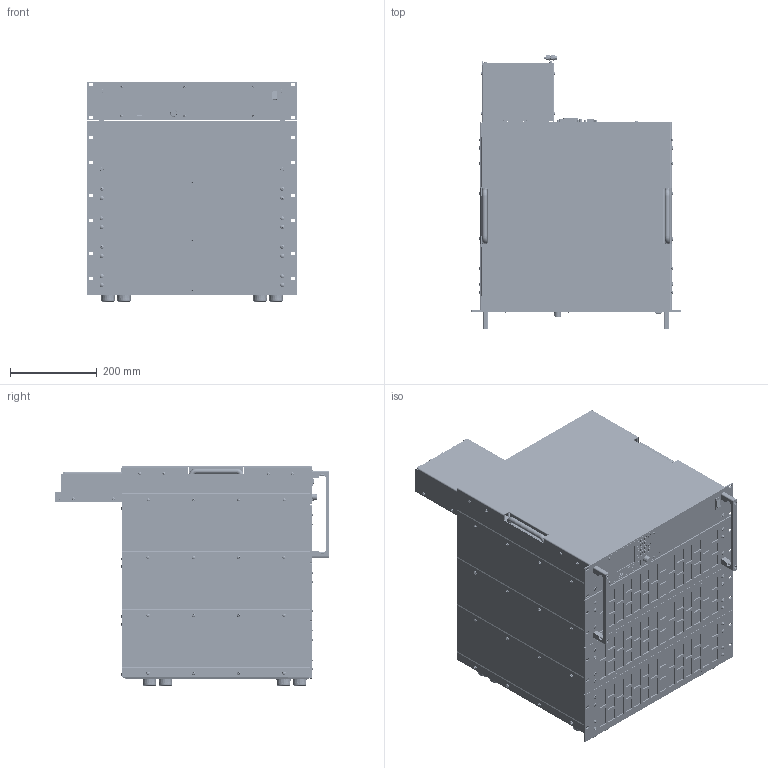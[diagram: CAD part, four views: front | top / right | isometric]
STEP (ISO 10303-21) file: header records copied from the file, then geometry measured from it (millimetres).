
FILE_DESCRIPTION(('STEP AP214'),'1');
FILE_NAME('PLI_M28_19Z_11HE_FKS40_12_SM12_BRB_3D_01.step','2019-02-14T09:12:22',(' '),(' '),'Spatial InterOp 3D',' ',' ');
FILE_SCHEMA(('AUTOMOTIVE_DESIGN { 1 0 10303 214 1 1 1 1 }'));
Length unit declared in the file: millimetre
Products named in the file (1): 1
Bounding box: 482.6 x 631.75 x 506.08 mm (x, y, z)
Volume: 29655392.6 mm3; surface area: 5694103.1 mm2
Topology: 304 solids, 1591 shells, 19855 faces, 54645 edges, 36869 vertices
Faces by surface type: plane 10316, cone 5710, cylinder 3251, sphere 302, torus 248, bspline 26, extrusion 2
Entity records: 810366 total; most frequent: CARTESIAN_POINT 117863, DIRECTION 115788, ORIENTED_EDGE 99468, EDGE_CURVE 53712, AXIS2_PLACEMENT_3D 40299, VERTEX_POINT 35738, VECTOR 35190, LINE 35188
